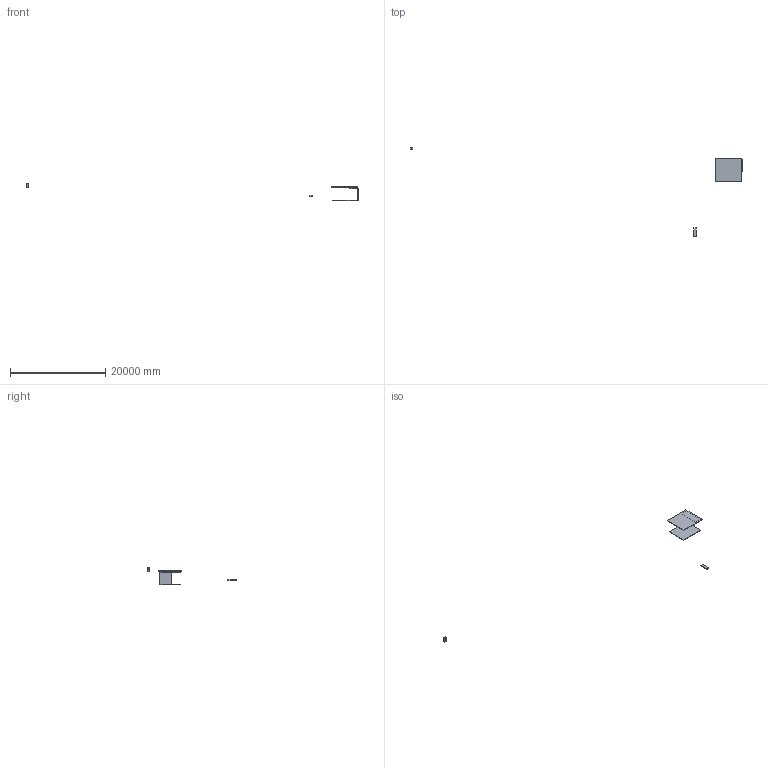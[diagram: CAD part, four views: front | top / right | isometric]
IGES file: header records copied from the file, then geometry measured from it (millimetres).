
Start section:  PTC IGES file: GPF5403700000G000_1.igs  PTC IGES file: gpf5403800000g000_asm.igs  PTC IGES file: GPF5420600000G001_1.igs  PTC IGES file: GPF5403200000G000_1.igs  PTC IGES file: T:\User\Fabio Oggero\Articoli IGS\Rettangolo\Accessori\2 0939_igs.igs  PTC IGES file: gpf5473810000g000_asm.igs  PTC IGES file: GPF6309900000G000_1.igs  PTC IGES file: GPF6301400000G000_1.igs  PTC IGES file: GPF3360700000G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
Global section: file name: D:\Desktop\GIOVANNI\SCHEDE PRODOTTO\PIANI LAVABO\SQUARE\3D\MOMA DESIGN_PIANI LAVABO_PORTA ASCIUGAMANI.igs; native system: Rhinoceros ( Jan 17 2018 ); preprocessor: Trout Lake IGES 012 Jan 17 2018; date: 230607.101221; units: millimetre
Bounding box: 69777.65 x 18697.28 x 3650 mm (x, y, z)
Surface area: 136911972.5 mm2 (no closed solid volume)
Topology: 0 solids, 0 shells, 67 faces, 310 edges, 310 vertices
Faces by surface type: bspline 67
